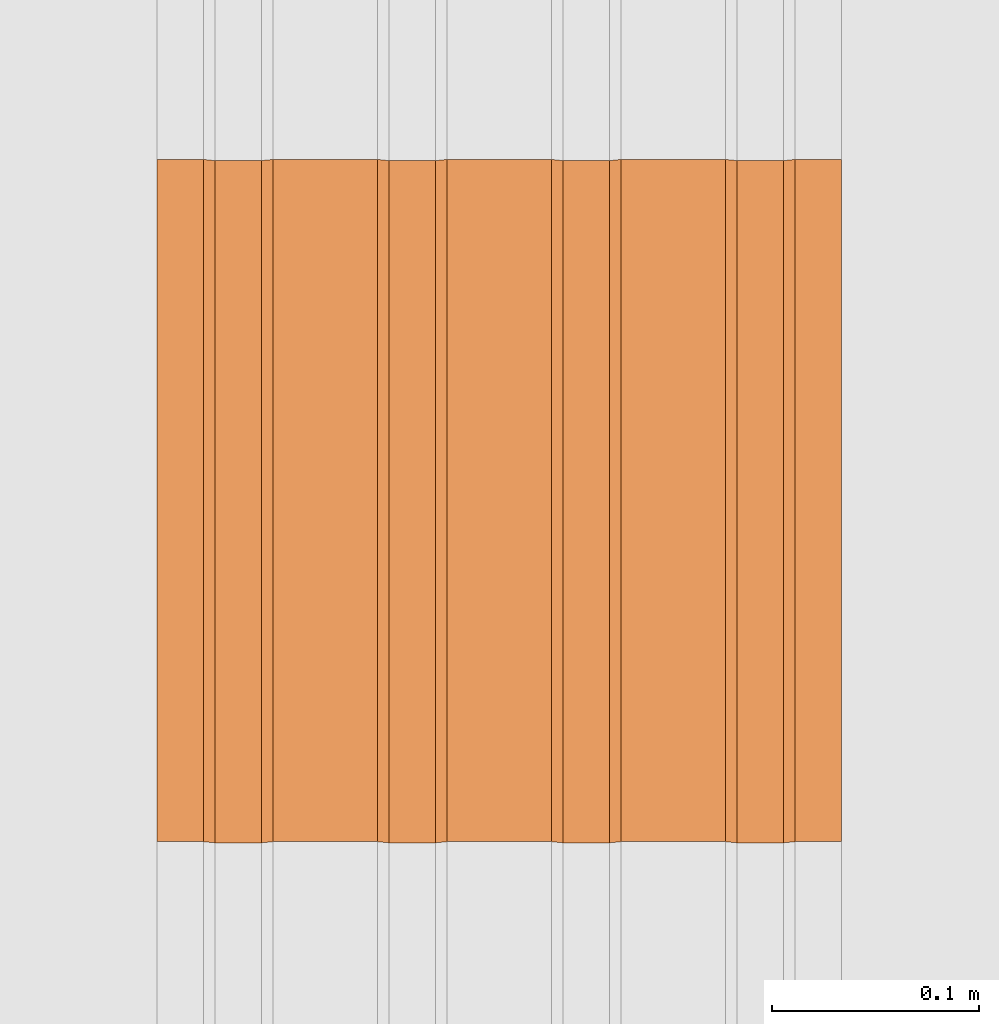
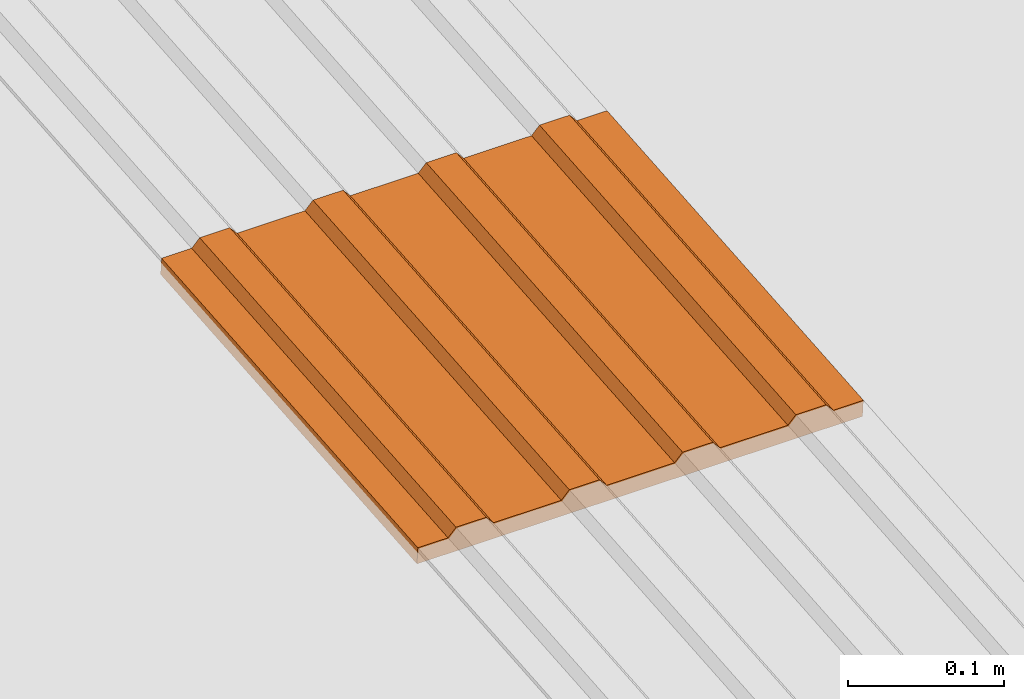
# One storey, part 176 of 237: 1 proxy.
"""IFC2X3 building model written with IfcOpenShell, lengths in millimetres."""

from ifc_helpers import new_model, entity, si_unit, converted_unit, derived_unit, money_unit, direction, frame, origin_with_axes, place, context, subcontext, project, spatial, open_shell, surface_model, source, transform, mapped, type_object, element, save


model = new_model("IFC2X3")

# Units and contexts
model_context = context("Model", 3, precision=0.01, world=origin_with_axes(), true_north=direction((0.0, 1.0)))
body_context = subcontext(model_context, "Body", "Model", "MODEL_VIEW")
ifc_project = project(units=[si_unit("LENGTHUNIT", "METRE", prefix="MILLI"), si_unit("AREAUNIT", "SQUARE_METRE"), si_unit("VOLUMEUNIT", "CUBIC_METRE"), converted_unit("PLANEANGLEUNIT", "DEGREE", entity("IfcPlaneAngleMeasure", 0.0174532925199), si_unit("PLANEANGLEUNIT", "RADIAN"), dimensions=[0, 0, 0, 0, 0, 0, 0]), money_unit("USD"), converted_unit("TIMEUNIT", "Year", entity("IfcTimeMeasure", 31556926.0), si_unit("TIMEUNIT", "SECOND"), dimensions=[0, 0, 1, 0, 0, 0, 0]), si_unit("MASSUNIT", "GRAM", prefix="KILO"), si_unit("THERMODYNAMICTEMPERATUREUNIT", "DEGREE_CELSIUS"), si_unit("LUMINOUSINTENSITYUNIT", "LUMEN"), si_unit("ENERGYUNIT", "JOULE", prefix="MEGA"), derived_unit("THERMALCONDUCTANCEUNIT", [(si_unit("POWERUNIT", "WATT"), 1), (si_unit("LENGTHUNIT", "METRE"), -1), (si_unit("THERMODYNAMICTEMPERATUREUNIT", "KELVIN"), -1)]), derived_unit("SPECIFICHEATCAPACITYUNIT", [(si_unit("ENERGYUNIT", "JOULE"), 1), (si_unit("MASSUNIT", "GRAM", prefix="KILO"), -1), (si_unit("THERMODYNAMICTEMPERATUREUNIT", "KELVIN"), -1)]), derived_unit("MASSDENSITYUNIT", [(si_unit("MASSUNIT", "GRAM", prefix="KILO"), 1), (si_unit("VOLUMEUNIT", "CUBIC_METRE"), -1)])], contexts=[model_context])

# Site, building, storey
site_placement = place(None, origin_with_axes())
site = spatial("IfcSite", under=ifc_project, at=site_placement, Name="Local", CompositionType="ELEMENT")
building_placement = place(site_placement, origin_with_axes())
building = spatial("IfcBuilding", under=site, at=building_placement, Name="Construção", CompositionType="ELEMENT")
storey_placement = place(building_placement, origin_with_axes())
storey = spatial("IfcBuildingStorey", under=building, at=storey_placement, Name="Pavimento Térreo", CompositionType="ELEMENT", Elevation=0.0)

# Proxy
building_element_proxy_type = type_object("IfcBuildingElementProxyType", Name="Piso Direcional 27", PredefinedType="NOTDEFINED")
shared_shape = source(origin_with_axes(), body_context, "Body", "SurfaceModel", [
    surface_model("IfcShellBasedSurfaceModel", [(-0.333594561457, -47.258225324, 4.01468455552), (328.533021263, -47.258225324, 31.3413930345), (327.980966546, -41.665004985, 37.9851630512), (-0.885649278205, -41.665004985, 10.6584545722)], [open_shell([[[0, 1, 2, 3]]])]),
    surface_model("IfcShellBasedSurfaceModel", [(329.637130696, -153.529411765, 18.0538530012), (329.637130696, 176.470588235, 18.0538530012), (328.533021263, 176.470588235, 31.3413930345), (328.533021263, 154.097706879, 31.3413930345), (327.980966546, 148.50448654, 37.9851630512), (327.980966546, 126.131605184, 37.9851630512), (328.533021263, 120.538384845, 31.3413930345), (328.533021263, 70.1994017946, 31.3413930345), (327.980966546, 64.6061814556, 37.9851630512), (327.980966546, 42.2333000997, 37.9851630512), (328.533021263, 36.6400797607, 31.3413930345), (328.533021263, -13.6989032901, 31.3413930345), (327.980966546, -19.2921236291, 37.9851630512), (327.980966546, -41.665004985, 37.9851630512), (328.533021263, -47.258225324, 31.3413930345), (328.533021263, -97.5972083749, 31.3413930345), (327.980966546, -103.190428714, 37.9851630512), (327.980966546, -125.56331007, 37.9851630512), (328.533021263, -131.156530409, 31.3413930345), (328.533021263, -153.529411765, 31.3413930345)], [open_shell([[[0, 1, 2, 3, 4, 5, 6, 7, 8, 9, 10, 11, 12, 13, 14, 15, 16, 17, 18, 19]]])]),
    surface_model("IfcShellBasedSurfaceModel", [(-0.885649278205, -19.2921236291, 10.6584545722), (327.980966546, -19.2921236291, 37.9851630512), (328.533021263, -13.6989032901, 31.3413930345), (-0.333594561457, -13.6989032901, 4.01468455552)], [open_shell([[[0, 1, 2, 3]]])]),
    surface_model("IfcShellBasedSurfaceModel", [(-0.885649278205, -103.190428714, 10.6584545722), (327.980966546, -103.190428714, 37.9851630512), (328.533021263, -97.5972083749, 31.3413930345), (-0.333594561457, -97.5972083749, 4.01468455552)], [open_shell([[[0, 1, 2, 3]]])]),
    surface_model("IfcShellBasedSurfaceModel", [(-0.885649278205, 64.6061814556, 10.6584545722), (327.980966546, 64.6061814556, 37.9851630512), (328.533021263, 70.1994017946, 31.3413930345), (-0.333594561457, 70.1994017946, 4.01468455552)], [open_shell([[[0, 1, 2, 3]]])]),
    surface_model("IfcShellBasedSurfaceModel", [(-0.333594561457, 36.6400797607, 4.01468455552), (328.533021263, 36.6400797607, 31.3413930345), (327.980966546, 42.2333000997, 37.9851630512), (-0.885649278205, 42.2333000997, 10.6584545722)], [open_shell([[[0, 1, 2, 3]]])]),
    surface_model("IfcShellBasedSurfaceModel", [(-0.333594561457, -131.156530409, 4.01468455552), (328.533021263, -131.156530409, 31.3413930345), (327.980966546, -125.56331007, 37.9851630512), (-0.885649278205, -125.56331007, 10.6584545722)], [open_shell([[[0, 1, 2, 3]]])]),
    surface_model("IfcShellBasedSurfaceModel", [(-0.333594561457, 176.470588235, 4.01468455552), (-0.333594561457, 154.097706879, 4.01468455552), (328.533021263, 154.097706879, 31.3413930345), (328.533021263, 176.470588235, 31.3413930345)], [open_shell([[[0, 1, 2, 3]]])]),
    surface_model("IfcShellBasedSurfaceModel", [(-0.333594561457, 120.538384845, 4.01468455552), (328.533021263, 120.538384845, 31.3413930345), (327.980966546, 126.131605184, 37.9851630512), (-0.885649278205, 126.131605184, 10.6584545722)], [open_shell([[[0, 1, 2, 3]]])]),
    surface_model("IfcShellBasedSurfaceModel", [(-0.885649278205, 148.50448654, 10.6584545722), (327.980966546, 148.50448654, 37.9851630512), (328.533021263, 154.097706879, 31.3413930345), (-0.333594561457, 154.097706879, 4.01468455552)], [open_shell([[[0, 1, 2, 3]]])]),
    surface_model("IfcShellBasedSurfaceModel", [(-0.333594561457, 36.6400797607, 4.01468455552), (-0.333594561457, -13.6989032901, 4.01468455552), (328.533021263, -13.6989032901, 31.3413930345), (328.533021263, 36.6400797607, 31.3413930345)], [open_shell([[[0, 1, 2, 3]]])]),
    surface_model("IfcShellBasedSurfaceModel", [(-0.333594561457, 120.538384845, 4.01468455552), (-0.333594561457, 70.1994017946, 4.01468455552), (328.533021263, 70.1994017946, 31.3413930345), (328.533021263, 120.538384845, 31.3413930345)], [open_shell([[[0, 1, 2, 3]]])]),
    surface_model("IfcShellBasedSurfaceModel", [(-0.885649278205, 148.50448654, 10.6584545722), (-0.885649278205, 126.131605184, 10.6584545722), (327.980966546, 126.131605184, 37.9851630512), (327.980966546, 148.50448654, 37.9851630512)], [open_shell([[[0, 1, 2, 3]]])]),
    surface_model("IfcShellBasedSurfaceModel", [(-0.333594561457, 120.538384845, 4.01468455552), (-0.885649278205, 126.131605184, 10.6584545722), (-0.885649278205, 148.50448654, 10.6584545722), (-0.333594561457, 154.097706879, 4.01468455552), (-0.333594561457, 176.470588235, 4.01468455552), (0.770514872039, 176.470588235, -9.27285547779), (0.770514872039, -153.529411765, -9.27285547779), (-0.333594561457, -153.529411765, 4.01468455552), (-0.333594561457, -131.156530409, 4.01468455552), (-0.885649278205, -125.56331007, 10.6584545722), (-0.885649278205, -103.190428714, 10.6584545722), (-0.333594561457, -97.5972083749, 4.01468455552), (-0.333594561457, -47.258225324, 4.01468455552), (-0.885649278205, -41.665004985, 10.6584545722), (-0.885649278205, -19.2921236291, 10.6584545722), (-0.333594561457, -13.6989032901, 4.01468455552), (-0.333594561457, 36.6400797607, 4.01468455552), (-0.885649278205, 42.2333000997, 10.6584545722), (-0.885649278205, 64.6061814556, 10.6584545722), (-0.333594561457, 70.1994017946, 4.01468455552)], [open_shell([[[0, 1, 2, 3, 4, 5, 6, 7, 8, 9, 10, 11, 12, 13, 14, 15, 16, 17, 18, 19]]])]),
    surface_model("IfcShellBasedSurfaceModel", [(327.980966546, -41.665004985, 37.9851630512), (327.980966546, -19.2921236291, 37.9851630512), (-0.885649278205, -19.2921236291, 10.6584545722), (-0.885649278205, -41.665004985, 10.6584545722)], [open_shell([[[0, 1, 2, 3]]])]),
    surface_model("IfcShellBasedSurfaceModel", [(-0.333594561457, -47.258225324, 4.01468455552), (-0.333594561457, -97.5972083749, 4.01468455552), (328.533021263, -97.5972083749, 31.3413930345), (328.533021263, -47.258225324, 31.3413930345)], [open_shell([[[0, 1, 2, 3]]])]),
    surface_model("IfcShellBasedSurfaceModel", [(327.980966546, 42.2333000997, 37.9851630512), (327.980966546, 64.6061814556, 37.9851630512), (-0.885649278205, 64.6061814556, 10.6584545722), (-0.885649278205, 42.2333000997, 10.6584545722)], [open_shell([[[0, 1, 2, 3]]])]),
    surface_model("IfcShellBasedSurfaceModel", [(327.980966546, -125.56331007, 37.9851630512), (327.980966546, -103.190428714, 37.9851630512), (-0.885649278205, -103.190428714, 10.6584545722), (-0.885649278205, -125.56331007, 10.6584545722)], [open_shell([[[0, 1, 2, 3]]])]),
    surface_model("IfcShellBasedSurfaceModel", [(329.637130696, 176.470588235, 18.0538530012), (0.770514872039, 176.470588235, -9.27285547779), (-0.333594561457, 176.470588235, 4.01468455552), (328.533021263, 176.470588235, 31.3413930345)], [open_shell([[[0, 1, 2, 3]]])]),
    surface_model("IfcShellBasedSurfaceModel", [(329.637130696, -153.529411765, 18.0538530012), (0.770514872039, -153.529411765, -9.27285547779), (0.770514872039, 176.470588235, -9.27285547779), (329.637130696, 176.470588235, 18.0538530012)], [open_shell([[[0, 1, 2, 3]]])]),
    surface_model("IfcShellBasedSurfaceModel", [(328.533021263, -153.529411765, 31.3413930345), (328.533021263, -131.156530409, 31.3413930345), (-0.333594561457, -131.156530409, 4.01468455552), (-0.333594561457, -153.529411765, 4.01468455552)], [open_shell([[[0, 1, 2, 3]]])]),
    surface_model("IfcShellBasedSurfaceModel", [(0.770514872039, -153.529411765, -9.27285547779), (329.637130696, -153.529411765, 18.0538530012), (328.533021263, -153.529411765, 31.3413930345), (-0.333594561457, -153.529411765, 4.01468455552)], [open_shell([[[0, 1, 2, 3]]])]),
])
proxy_placement = place(storey_placement, frame((84148.2330476, 15422.1548627, -5049.84575758), z_axis=(0.0, 0.0, 1.0), x_axis=(0.0, 1.0, 0.0)))
element("IfcBuildingElementProxy", 1, at=proxy_placement, inside=storey, type_object=building_element_proxy_type, Name="Objeto-0055", context=body_context, shape_type="MappedRepresentation", body=[
    mapped(shared_shape, transform((0.0, 0.0, 0.0))),
])

save(model, "model.ifc")
